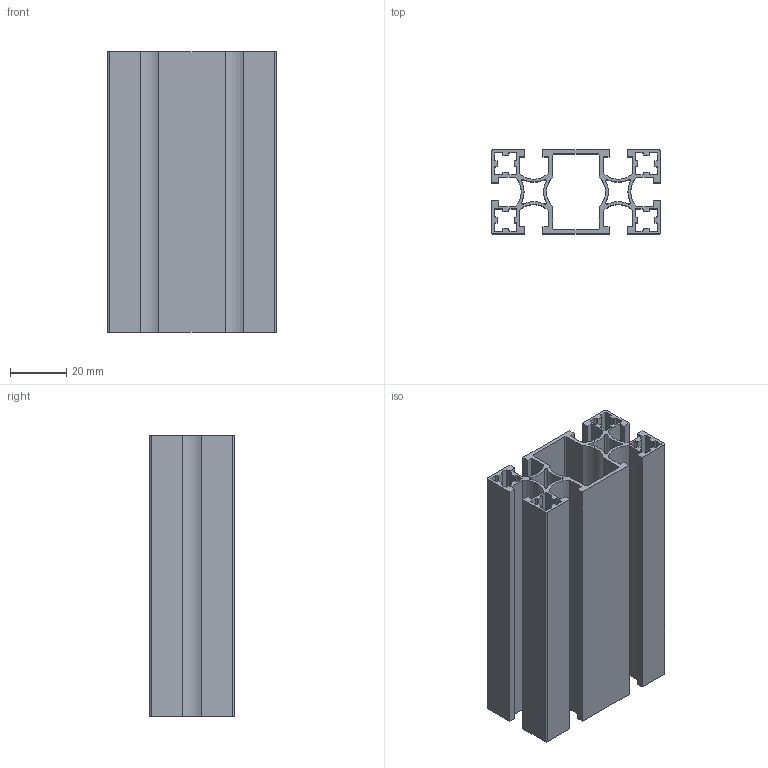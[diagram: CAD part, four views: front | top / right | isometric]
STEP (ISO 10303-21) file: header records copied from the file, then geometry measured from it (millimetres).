
FILE_DESCRIPTION(/* description */ (''),/* implementation_level */ '2;1');
FILE_NAME(/* name */ 'C:\Users\Owner\Documents\硯聰\Inv材料庫-3D新型錄\AM-(鋁擠)\6系列\AM6-P3060_100L.stp',/* time_stamp */ '2019-02-21T15:09:36+08:00',/* author */ ('Owner'),/* organization */ (''),/* preprocessor_version */ 'ST-DEVELOPER v16.1',/* originating_system */ 'Autodesk Inventor 2016',/* authorisation */ '');
FILE_SCHEMA (('AUTOMOTIVE_DESIGN { 1 0 10303 214 3 1 1 }'));
Length unit declared in the file: millimetre
Products named in the file (1): AM6-P3060_100L
Bounding box: 60 x 30 x 100 mm (x, y, z)
Volume: 41922.5 mm3; surface area: 65330.3 mm2
Topology: 1 solids, 1 shells, 214 faces, 636 edges, 424 vertices
Faces by surface type: plane 138, cylinder 76
Entity records: 7224 total; most frequent: CARTESIAN_POINT 1275, ORIENTED_EDGE 1272, DIRECTION 1218, EDGE_CURVE 636, LINE 484, VECTOR 484, VERTEX_POINT 424, AXIS2_PLACEMENT_3D 367
